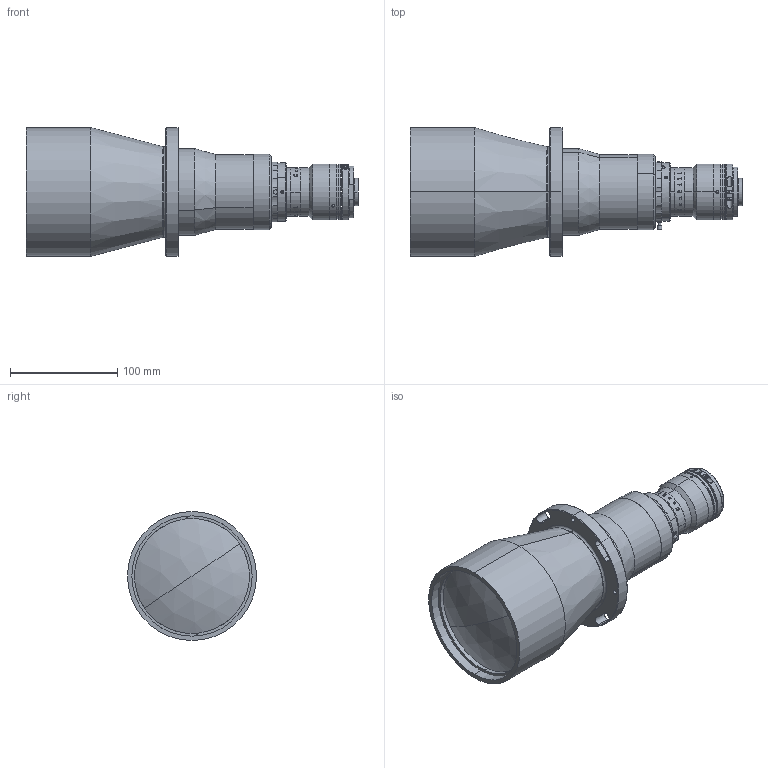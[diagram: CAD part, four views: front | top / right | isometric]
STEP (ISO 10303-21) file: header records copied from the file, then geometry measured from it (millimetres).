
FILE_DESCRIPTION (( 'STEP AP203' ), '1' );
FILE_NAME ('XF-PTL09219-C-VI.STEP', '2019-05-28T02:39:39', ( 'canrill005' ), ( '' ), 'SwSTEP 2.0', 'SolidWorks 2014', '' );
FILE_SCHEMA (( 'CONFIG_CONTROL_DESIGN' ));
Length unit declared in the file: millimetre
Products named in the file (2): XF-PTL09219-C-VI
Bounding box: 308.96 x 120 x 120 mm (x, y, z)
Surface area: 126247.4 mm2 (no closed solid volume)
Topology: 0 solids, 44 shells, 271 faces, 1336 edges, 1106 vertices
Faces by surface type: cylinder 142, plane 75, cone 32, torus 14, sphere 4, bspline 4
Entity records: 21126 total; most frequent: CARTESIAN_POINT 10873, DIRECTION 1991, ORIENTED_EDGE 1841, EDGE_CURVE 1336, VERTEX_POINT 1106, AXIS2_PLACEMENT_3D 780, CIRCLE 511, VECTOR 431
